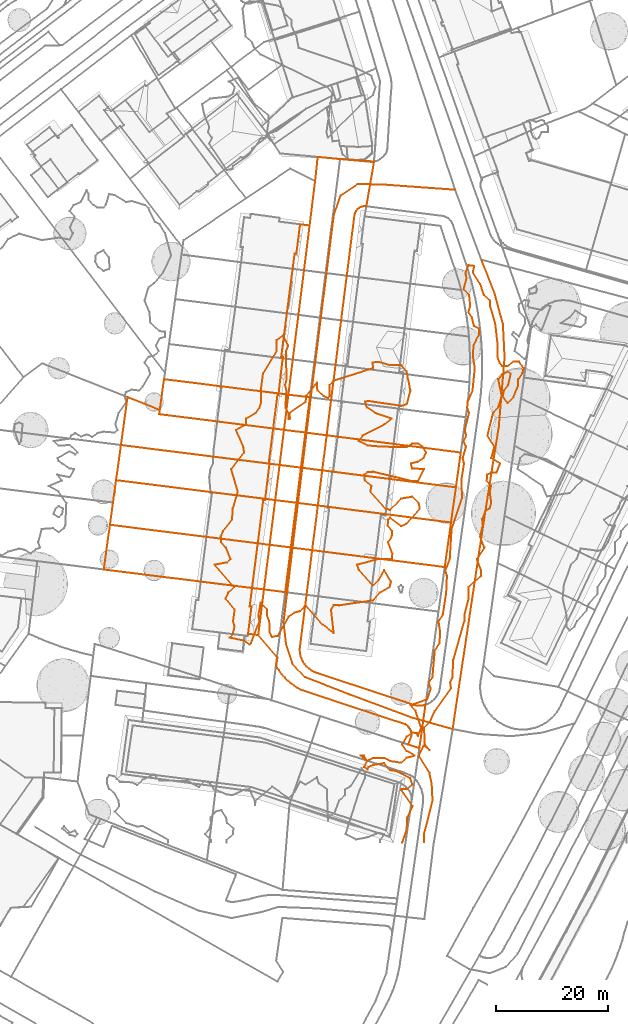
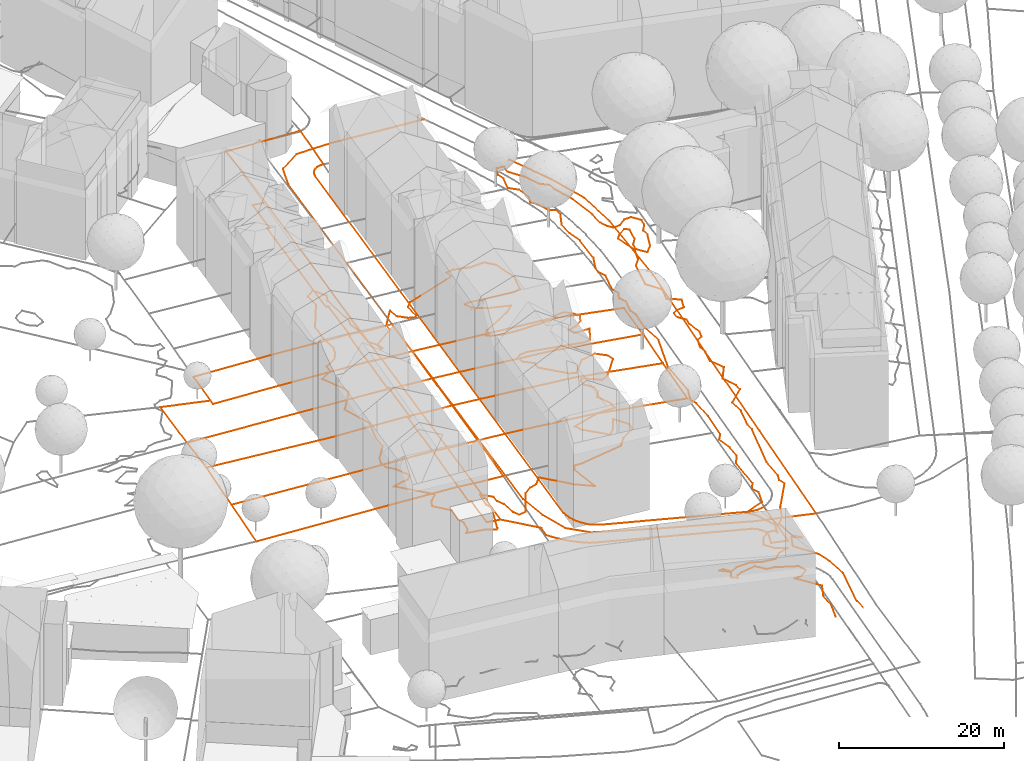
# Not in any storey, part 127 of 494: 14 proxies.
"""IFC2X3 model written with IfcOpenShell, lengths in metres."""

from ifc_helpers import new_model, entity, si_unit, frame, origin_with_axes, place, context, subcontext, project, element, save


model = new_model("IFC2X3")

# Units and contexts
model_context = context("Model", 3, precision=1e-05, world=origin_with_axes())
body_context = subcontext(model_context, "Body", "Model", "MODEL_VIEW")
ifc_project = project(units=[si_unit("AREAUNIT", "SQUARE_METRE"), si_unit("LENGTHUNIT", "METRE")], contexts=[model_context])

# Proxies
proxy_1_placement = place(None, frame((480.8617320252, 18.8857425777, 501.898), z_axis=(0.0, 0.0, 1.0), x_axis=(1.0, 0.0, 0.0)))
element("IfcBuildingElementProxy", 1, at=proxy_1_placement, Name="Road 96", ObjectType="NOTDEFINED", context=body_context, shape_type="GeometricCurveSet", body=[
    entity("IfcGeometricCurveSet", [entity("IfcPolyline", [entity("IfcCartesianPoint", [0.0, 0.0, 0.0]), entity("IfcCartesianPoint", [2.7899999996, 18.6489994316, 0.008]), entity("IfcCartesianPoint", [5.432, 36.2699988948, -0.042]), entity("IfcCartesianPoint", [8.2219999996, 53.8909983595, -0.147]), entity("IfcCartesianPoint", [9.2509999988, 66.2259979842, -0.063]), entity("IfcCartesianPoint", [8.956999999, 72.0999978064, 0.001]), entity("IfcCartesianPoint", [7.4890000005, 77.5339976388, -0.049]), entity("IfcCartesianPoint", [5.138999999, 83.553997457, -0.014])])]),
])
proxy_2_placement = place(None, frame((450.7577320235, 37.9757419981, 502.976), z_axis=(0.0, 0.0, 1.0), x_axis=(1.0, 0.0, 0.0)))
element("IfcBuildingElementProxy", 2, at=proxy_2_placement, Name="Road 97", ObjectType="NOTDEFINED", context=body_context, shape_type="GeometricCurveSet", body=[
    entity("IfcGeometricCurveSet", [entity("IfcPolyline", [entity("IfcCartesianPoint", [30.1040000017, -19.0899994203, -1.078]), entity("IfcCartesianPoint", [22.7609999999, -17.0339994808, -0.903]), entity("IfcCartesianPoint", [11.7480000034, -12.921999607, -0.621]), entity("IfcCartesianPoint", [3.819000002, -9.8389997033, -0.308]), entity("IfcCartesianPoint", [1.6150000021, -7.488999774, -0.338]), entity("IfcCartesianPoint", [0.4410000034, -3.9649998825, -0.097]), entity("IfcCartesianPoint", [0.0, 0.0, 0.0]), entity("IfcCartesianPoint", [4.8460000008, 39.9409987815, -0.148]), entity("IfcCartesianPoint", [8.9580000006, 72.5409977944, -0.481]), entity("IfcCartesianPoint", [10.1330000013, 75.9179976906, -0.6]), entity("IfcCartesianPoint", [13.2160000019, 77.9739976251, -0.737]), entity("IfcCartesianPoint", [18.2090000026, 77.8279976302, -0.707]), entity("IfcCartesianPoint", [30.5440000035, 76.9459976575, -1.027])])]),
])
proxy_3_placement = place(None, frame((444.4347320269, 35.8527160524, 503.0549278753), z_axis=(0.0, 0.0, 1.0), x_axis=(1.0, 0.0, 0.0)))
element("IfcBuildingElementProxy", 3, at=proxy_3_placement, Name="Roads Outline 118", ObjectType="NOTDEFINED", context=body_context, shape_type="GeometricCurveSet", body=[
    entity("IfcGeometricCurveSet", [entity("IfcPolyline", [entity("IfcCartesianPoint", [0.0, 0.0, 0.0]), entity("IfcCartesianPoint", [0.6129999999, 4.821, 0.0140262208]), entity("IfcCartesianPoint", [0.2959999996, 4.861, 0.0262642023]), entity("IfcCartesianPoint", [0.7139999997, 8.152, 0.0771060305]), entity("IfcCartesianPoint", [1.7249999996, 16.105, 0.1620143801]), entity("IfcCartesianPoint", [2.7049999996, 23.817, 0.1384099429]), entity("IfcCartesianPoint", [3.0209999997, 23.777, 0.1314965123]), entity("IfcCartesianPoint", [3.0529999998, 24.0249999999, 0.1304778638]), entity("IfcCartesianPoint", [3.8219999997, 30.28, 0.0889115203]), entity("IfcCartesianPoint", [3.8529999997, 30.5279999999, 0.0824403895]), entity("IfcCartesianPoint", [3.7039999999, 30.547, 0.0894626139]), entity("IfcCartesianPoint", [4.4699999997, 36.551, 0.0671671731]), entity("IfcCartesianPoint", [5.236, 42.5530000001, 0.0344566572]), entity("IfcCartesianPoint", [5.4049999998, 42.5319999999, 0.0215979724]), entity("IfcCartesianPoint", [5.4350000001, 42.791, 0.0216717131]), entity("IfcCartesianPoint", [6.1689999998, 49.051, -0.03255837]), entity("IfcCartesianPoint", [6.1939999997, 49.2679999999, -0.0415659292]), entity("IfcCartesianPoint", [5.8969999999, 49.307, -0.0056380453]), entity("IfcCartesianPoint", [6.9039999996, 57.0430000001, -0.1713291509]), entity("IfcCartesianPoint", [7.9359999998, 64.98, -0.3282861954]), entity("IfcCartesianPoint", [8.2939999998, 67.7220000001, -0.3507769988]), entity("IfcCartesianPoint", [8.602, 67.683, -0.3688636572]), entity("IfcCartesianPoint", [9.2659999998, 72.9110000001, -0.4470955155]), entity("IfcCartesianPoint", [10.9529999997, 72.696, -0.5103540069]), entity("IfcCartesianPoint", [1.8169999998, -0.2309999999, -0.1125126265]), entity("IfcCartesianPoint", [0.0, 0.0, 0.0])])]),
])
proxy_4_placement = place(None, frame((446.2517320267, 35.6217160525, 502.9424152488), z_axis=(0.0, 0.0, 1.0), x_axis=(1.0, 0.0, 0.0)))
element("IfcBuildingElementProxy", 4, at=proxy_4_placement, Name="Roads Outline 142", ObjectType="NOTDEFINED", context=body_context, shape_type="GeometricCurveSet", body=[
    entity("IfcGeometricCurveSet", [entity("IfcPolyline", [entity("IfcCartesianPoint", [0.0, 0.0, 0.0]), entity("IfcCartesianPoint", [9.1359999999, 72.9269999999, -0.3978413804]), entity("IfcCartesianPoint", [10.122, 80.808, -0.4845504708]), entity("IfcCartesianPoint", [10.5720000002, 85.139, -0.7922469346]), entity("IfcCartesianPoint", [14.5720000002, 84.7589999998, -0.6802024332]), entity("IfcCartesianPoint", [16.3799999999, 84.591, -0.6472827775]), entity("IfcCartesianPoint", [20.2069999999, 84.348, -0.690236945]), entity("IfcCartesianPoint", [20.409, 84.3339999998, -0.6953385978]), entity("IfcCartesianPoint", [20.6120000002, 84.3389999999, -0.7013848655]), entity("IfcCartesianPoint", [20.6010000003, 84.199, -0.6944927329]), entity("IfcCartesianPoint", [19.2379999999, 76.3539999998, -0.3432937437]), entity("IfcCartesianPoint", [19.139, 76.3669999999, -0.3429746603]), entity("IfcCartesianPoint", [18.8250000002, 76.3699999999, -0.340334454]), entity("IfcCartesianPoint", [18.5150000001, 76.3199999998, -0.3352851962]), entity("IfcCartesianPoint", [18.2170000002, 76.2189999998, -0.3304343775]), entity("IfcCartesianPoint", [17.9410000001, 76.0689999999, -0.3269020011]), entity("IfcCartesianPoint", [17.6439999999, 75.8259999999, -0.3221106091]), entity("IfcCartesianPoint", [17.4029999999, 75.5279999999, -0.3204986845]), entity("IfcCartesianPoint", [17.2280000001, 75.1869999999, -0.3219565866]), entity("IfcCartesianPoint", [17.1260000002, 74.818, -0.3225200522]), entity("IfcCartesianPoint", [7.3810000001, -2.4870000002, -0.0695600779]), entity("IfcCartesianPoint", [7.4160000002, -3.0630000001, -0.0846488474]), entity("IfcCartesianPoint", [7.5240000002, -3.6290000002, -0.1031213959]), entity("IfcCartesianPoint", [7.7039999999, -4.1770000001, -0.1230907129]), entity("IfcCartesianPoint", [7.952, -4.6970000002, -0.1630756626]), entity("IfcCartesianPoint", [8.2609999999, -5.176, -0.1824240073]), entity("IfcCartesianPoint", [8.628, -5.611, -0.2215844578]), entity("IfcCartesianPoint", [9.0470000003, -5.996, -0.2751528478]), entity("IfcCartesianPoint", [9.5120000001, -6.3250000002, -0.246311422]), entity("IfcCartesianPoint", [10.0150000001, -6.5930000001, -0.2523036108]), entity("IfcCartesianPoint", [10.548, -6.794, -0.2882218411]), entity("IfcCartesianPoint", [27.0810000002, -12.2410000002, -0.9431703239]), entity("IfcCartesianPoint", [27.6000000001, -12.4230000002, -0.9547359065]), entity("IfcCartesianPoint", [28.1409999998, -12.5290000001, -0.9737268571]), entity("IfcCartesianPoint", [28.6899999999, -12.5560000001, -0.9897706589]), entity("IfcCartesianPoint", [29.2379999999, -12.503, -0.9913075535]), entity("IfcCartesianPoint", [29.773, -12.3730000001, -0.9845470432]), entity("IfcCartesianPoint", [28.6830000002, -20.1430000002, -0.9363403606]), entity("IfcCartesianPoint", [26.6890000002, -19.4970000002, -0.9745874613]), entity("IfcCartesianPoint", [27.2719999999, -17.8720000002, -0.9566055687]), entity("IfcCartesianPoint", [27.27, -17.4910000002, -0.9515713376]), entity("IfcCartesianPoint", [27.196, -17.118, -0.9471228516]), entity("IfcCartesianPoint", [27.054, -16.7650000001, -0.9390478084]), entity("IfcCartesianPoint", [26.8790000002, -16.486, -0.9265239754]), entity("IfcCartesianPoint", [26.6609999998, -16.24, -0.910034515]), entity("IfcCartesianPoint", [26.406, -16.0330000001, -0.8954364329]), entity("IfcCartesianPoint", [26.1200000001, -15.8700000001, -0.8820961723]), entity("IfcCartesianPoint", [7.6869999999, -9.787, -0.1602901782]), entity("IfcCartesianPoint", [7.003, -9.4200000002, -0.1835348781]), entity("IfcCartesianPoint", [6.3510000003, -8.9990000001, -0.1578448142]), entity("IfcCartesianPoint", [5.7779999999, -8.5650000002, -0.1272363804]), entity("IfcCartesianPoint", [5.2400000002, -8.0890000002, -0.1346529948]), entity("IfcCartesianPoint", [4.7379999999, -7.574, -0.1124284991]), entity("IfcCartesianPoint", [4.1770000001, -6.9270000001, -0.0920350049]), entity("IfcCartesianPoint", [3.665, -6.24, -0.0879605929]), entity("IfcCartesianPoint", [3.2069999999, -5.517, -0.0814330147]), entity("IfcCartesianPoint", [3.4210000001, -3.9600000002, -0.0360167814]), entity("IfcCartesianPoint", [0.0, 0.0, 0.0])])]),
])
proxy_5_placement = place(None, frame((419.8427320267, 55.2587160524, 502.4970550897), z_axis=(0.0, 0.0, 1.0), x_axis=(1.0, 0.0, 0.0)))
element("IfcBuildingElementProxy", 5, at=proxy_5_placement, Name="Cadastre 178", ObjectType="NOTDEFINED", context=body_context, shape_type="GeometricCurveSet", body=[
    entity("IfcGeometricCurveSet", [entity("IfcPolyline", [entity("IfcCartesianPoint", [0.0, 0.0, 0.0]), entity("IfcCartesianPoint", [0.54, 3.95, 0.1104670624]), entity("IfcCartesianPoint", [1.091, 7.9399999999, 0.3101052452]), entity("IfcCartesianPoint", [17.4020000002, 5.899, 0.325993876]), entity("IfcCartesianPoint", [27.577, 4.6270000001, 0.6902176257]), entity("IfcCartesianPoint", [29.4419999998, 4.3929999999, 0.6739560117]), entity("IfcCartesianPoint", [33.2179999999, 3.9210000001, 0.6945416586]), entity("IfcCartesianPoint", [32.2069999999, -4.0389999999, 0.6980586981]), entity("IfcCartesianPoint", [28.4330000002, -3.5649999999, 0.6525538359]), entity("IfcCartesianPoint", [26.2799999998, -3.2959999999, 0.7189436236]), entity("IfcCartesianPoint", [17.1740000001, -2.1539999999, 0.430070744]), entity("IfcCartesianPoint", [0.0, 0.0, 0.0])])]),
])
proxy_6_placement = place(None, frame((418.7427320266, 47.2987160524, 502.2645492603), z_axis=(0.0, 0.0, 1.0), x_axis=(1.0, 0.0, 0.0)))
element("IfcBuildingElementProxy", 6, at=proxy_6_placement, Name="Cadastre 179", ObjectType="NOTDEFINED", context=body_context, shape_type="GeometricCurveSet", body=[
    entity("IfcGeometricCurveSet", [entity("IfcPolyline", [entity("IfcCartesianPoint", [0.0, 0.0, 0.0]), entity("IfcCartesianPoint", [1.1000000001, 7.96, 0.2325058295]), entity("IfcCartesianPoint", [18.2740000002, 5.8060000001, 0.6625765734]), entity("IfcCartesianPoint", [27.3799999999, 4.6640000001, 0.9514494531]), entity("IfcCartesianPoint", [29.5330000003, 4.395, 0.8850596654]), entity("IfcCartesianPoint", [33.307, 3.9210000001, 0.9305645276]), entity("IfcCartesianPoint", [32.307, -4.03, 0.8305754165]), entity("IfcCartesianPoint", [28.5360000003, -3.5600000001, 0.7834388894]), entity("IfcCartesianPoint", [26.3530000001, -3.287, 0.8654896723]), entity("IfcCartesianPoint", [17.2940000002, -2.1569999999, 0.6070282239]), entity("IfcCartesianPoint", [0.0, 0.0, 0.0])])]),
])
proxy_7_placement = place(None, frame((452.0497320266, 51.2197160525, 503.1951137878), z_axis=(0.0, 0.0, 1.0), x_axis=(1.0, 0.0, 0.0)))
element("IfcBuildingElementProxy", 7, at=proxy_7_placement, Name="Cadastre 184", ObjectType="NOTDEFINED", context=body_context, shape_type="GeometricCurveSet", body=[
    entity("IfcGeometricCurveSet", [entity("IfcPolyline", [entity("IfcCartesianPoint", [0.0, 0.0, 0.0]), entity("IfcCartesianPoint", [1.0109999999, 7.96, -0.0035170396]), entity("IfcCartesianPoint", [4.7850000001, 7.477, -0.0309835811]), entity("IfcCartesianPoint", [6.6290000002, 7.2409999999, -0.0546581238]), entity("IfcCartesianPoint", [16.8340000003, 5.9349999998, -0.1864666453]), entity("IfcCartesianPoint", [28.5180000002, 4.4399999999, -1.2199965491]), entity("IfcCartesianPoint", [27.4080000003, -3.49, -1.2337524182]), entity("IfcCartesianPoint", [15.0090000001, -1.9110000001, -0.2226126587]), entity("IfcCartesianPoint", [5.898, -0.7510000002, -0.0099981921]), entity("IfcCartesianPoint", [3.7749999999, -0.4810000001, 0.0159298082]), entity("IfcCartesianPoint", [0.0, 0.0, 0.0])])]),
])
proxy_8_placement = place(None, frame((420.9337320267, 63.1987160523, 502.807160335), z_axis=(0.0, 0.0, 1.0), x_axis=(1.0, 0.0, 0.0)))
element("IfcBuildingElementProxy", 8, at=proxy_8_placement, Name="Cadastre 204", ObjectType="NOTDEFINED", context=body_context, shape_type="GeometricCurveSet", body=[
    entity("IfcGeometricCurveSet", [entity("IfcPolyline", [entity("IfcCartesianPoint", [0.0, 0.0, 0.0]), entity("IfcCartesianPoint", [0.8700000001, 6.26, -0.4219569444]), entity("IfcCartesianPoint", [17.071, 4.2240000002, 0.0797304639]), entity("IfcCartesianPoint", [27.2930000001, 2.9380000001, 0.3387390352]), entity("IfcCartesianPoint", [29.1379999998, 2.706, 0.277819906]), entity("IfcCartesianPoint", [32.9169999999, 2.2310000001, 0.3329606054]), entity("IfcCartesianPoint", [32.1269999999, -4.0189999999, 0.3844364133]), entity("IfcCartesianPoint", [28.3509999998, -3.547, 0.3638507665]), entity("IfcCartesianPoint", [26.486, -3.3129999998, 0.3801123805]), entity("IfcCartesianPoint", [16.3110000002, -2.041, 0.0158886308]), entity("IfcCartesianPoint", [0.0, 0.0, 0.0])])]),
])
proxy_9_placement = place(None, frame((421.8037320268, 69.4587160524, 502.3852033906), z_axis=(0.0, 0.0, 1.0), x_axis=(1.0, 0.0, 0.0)))
element("IfcBuildingElementProxy", 9, at=proxy_9_placement, Name="Cadastre 205", ObjectType="NOTDEFINED", context=body_context, shape_type="GeometricCurveSet", body=[
    entity("IfcGeometricCurveSet", [entity("IfcPolyline", [entity("IfcCartesianPoint", [0.0, 0.0, 0.0]), entity("IfcCartesianPoint", [1.1710000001, 8.52, -0.2973359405]), entity("IfcCartesianPoint", [6.9099999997, 6.2410000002, 0.0406906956]), entity("IfcCartesianPoint", [6.8100000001, 5.5010000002, 0.0328479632]), entity("IfcCartesianPoint", [15.3909999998, 4.4200000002, 0.3765727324]), entity("IfcCartesianPoint", [27.054, 2.9510000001, 0.7417938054]), entity("IfcCartesianPoint", [29.0779999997, 2.696, 0.6461739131]), entity("IfcCartesianPoint", [32.8479999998, 2.2210000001, 0.7118375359]), entity("IfcCartesianPoint", [32.0469999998, -4.0289999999, 0.7549175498]), entity("IfcCartesianPoint", [28.2679999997, -3.554, 0.6997768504]), entity("IfcCartesianPoint", [26.423, -3.3219999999, 0.7606959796]), entity("IfcCartesianPoint", [16.2009999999, -2.0359999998, 0.5016874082]), entity("IfcCartesianPoint", [0.0, 0.0, 0.0])])]),
])
proxy_10_placement = place(None, frame((428.6137320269, 74.9597160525, 502.4180513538), z_axis=(0.0, 0.0, 1.0), x_axis=(1.0, 0.0, 0.0)))
element("IfcBuildingElementProxy", 10, at=proxy_10_placement, Name="Cadastre 211", ObjectType="NOTDEFINED", context=body_context, shape_type="GeometricCurveSet", body=[
    entity("IfcGeometricCurveSet", [entity("IfcPolyline", [entity("IfcCartesianPoint", [0.0, 0.0, 0.0]), entity("IfcCartesianPoint", [0.0999999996, 0.74, 0.0078427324]), entity("IfcCartesianPoint", [0.861, 6.22, -0.0556646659]), entity("IfcCartesianPoint", [10.9619999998, 4.9639999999, 0.3904180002]), entity("IfcCartesianPoint", [21.173, 3.6939999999, 0.664717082]), entity("IfcCartesianPoint", [23.0579999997, 3.459, 0.5239383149]), entity("IfcCartesianPoint", [26.8279999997, 2.99, 0.6135678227]), entity("IfcCartesianPoint", [26.0379999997, -3.28, 0.6789895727]), entity("IfcCartesianPoint", [22.2679999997, -2.8050000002, 0.6133259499]), entity("IfcCartesianPoint", [20.2439999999, -2.55, 0.7089458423]), entity("IfcCartesianPoint", [8.5809999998, -1.081, 0.3437247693]), entity("IfcCartesianPoint", [0.0, 0.0, 0.0])])]),
])
proxy_11_placement = place(None, frame((453.8507320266, 65.4297160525, 503.1401209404), z_axis=(0.0, 0.0, 1.0), x_axis=(1.0, 0.0, 0.0)))
element("IfcBuildingElementProxy", 11, at=proxy_11_placement, Name="Cadastre 216", ObjectType="NOTDEFINED", context=body_context, shape_type="GeometricCurveSet", body=[
    entity("IfcGeometricCurveSet", [entity("IfcPolyline", [entity("IfcCartesianPoint", [0.0, 0.0, 0.0]), entity("IfcCartesianPoint", [0.801, 6.25, -0.0430800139]), entity("IfcCartesianPoint", [4.5690000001, 5.7649999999, -0.0579737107]), entity("IfcCartesianPoint", [6.5530000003, 5.51, -0.0866132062]), entity("IfcCartesianPoint", [18.4810000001, 3.9739999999, -0.1075855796]), entity("IfcCartesianPoint", [28.4580000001, 2.6899999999, -1.1334012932]), entity("IfcCartesianPoint", [27.588, -3.51, -0.9850205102]), entity("IfcCartesianPoint", [15.8140000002, -2.0120000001, -0.1901834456]), entity("IfcCartesianPoint", [5.605, -0.713, -0.0495484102]), entity("IfcCartesianPoint", [3.7800000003, -0.4810000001, -0.0184109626]), entity("IfcCartesianPoint", [0.0, 0.0, 0.0])])]),
])
proxy_12_placement = place(None, frame((453.0607320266, 59.1797160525, 503.1915967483), z_axis=(0.0, 0.0, 1.0), x_axis=(1.0, 0.0, 0.0)))
element("IfcBuildingElementProxy", 12, at=proxy_12_placement, Name="Cadastre 217", ObjectType="NOTDEFINED", context=body_context, shape_type="GeometricCurveSet", body=[
    entity("IfcGeometricCurveSet", [entity("IfcPolyline", [entity("IfcCartesianPoint", [0.0, 0.0, 0.0]), entity("IfcCartesianPoint", [0.79, 6.25, -0.0514758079]), entity("IfcCartesianPoint", [4.5700000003, 5.7689999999, -0.0698867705]), entity("IfcCartesianPoint", [6.395, 5.537, -0.1010242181]), entity("IfcCartesianPoint", [16.6040000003, 4.2379999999, -0.2416592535]), entity("IfcCartesianPoint", [28.378, 2.74, -1.036496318]), entity("IfcCartesianPoint", [27.5070000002, -3.52, -1.2164795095]), entity("IfcCartesianPoint", [15.8230000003, -2.0250000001, -0.1829496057]), entity("IfcCartesianPoint", [5.6180000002, -0.719, -0.0511410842]), entity("IfcCartesianPoint", [3.7740000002, -0.483, -0.0274665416]), entity("IfcCartesianPoint", [0.0, 0.0, 0.0])])]),
])
proxy_13_placement = place(None, frame((438.4559052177, 48.1707160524, 503.0), z_axis=(0.0, 0.0, 1.0), x_axis=(1.0, 0.0, 0.0)))
element("IfcBuildingElementProxy", 13, at=proxy_13_placement, Name="Contour Line 503.0 m", ObjectType="NOTDEFINED", context=body_context, shape_type="GeometricCurveSet", body=[
    entity("IfcGeometricCurveSet", [entity("IfcPolyline", [entity("IfcCartesianPoint", [6.4882360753, -14.0, 0.0]), entity("IfcCartesianPoint", [6.221826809, -14.2223415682, 0.0]), entity("IfcCartesianPoint", [5.221826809, -13.5312213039, 0.0]), entity("IfcCartesianPoint", [2.6863709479, -13.0, 0.0]), entity("IfcCartesianPoint", [3.221826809, -12.4721825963, 0.0]), entity("IfcCartesianPoint", [3.5698931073, -11.0, 0.0]), entity("IfcCartesianPoint", [3.3091939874, -10.0, 0.0]), entity("IfcCartesianPoint", [3.5953492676, -8.0, 0.0]), entity("IfcCartesianPoint", [1.949712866, -6.0, 0.0]), entity("IfcCartesianPoint", [2.4602169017, -5.0, 0.0]), entity("IfcCartesianPoint", [3.487998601, -4.0, 0.0]), entity("IfcCartesianPoint", [0.0, 0.0, 0.0]), entity("IfcCartesianPoint", [2.221826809, 0.4118507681, 0.0]), entity("IfcCartesianPoint", [2.8614449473, 1.0, 0.0]), entity("IfcCartesianPoint", [2.0531348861, 3.0, 0.0]), entity("IfcCartesianPoint", [1.183770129, 4.0, 0.0]), entity("IfcCartesianPoint", [1.1273146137, 5.0, 0.0]), entity("IfcCartesianPoint", [1.5029188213, 6.0, 0.0]), entity("IfcCartesianPoint", [3.1186923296, 8.0, 0.0]), entity("IfcCartesianPoint", [3.2627049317, 10.0, 0.0]), entity("IfcCartesianPoint", [4.1525278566, 13.0, 0.0]), entity("IfcCartesianPoint", [2.9771987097, 17.0, 0.0]), entity("IfcCartesianPoint", [5.2813608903, 20.0, 0.0]), entity("IfcCartesianPoint", [5.1331101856, 21.0, 0.0]), entity("IfcCartesianPoint", [3.8237376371, 24.0, 0.0]), entity("IfcCartesianPoint", [5.5900086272, 25.0, 0.0]), entity("IfcCartesianPoint", [5.6608374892, 26.0, 0.0]), entity("IfcCartesianPoint", [7.3370004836, 27.0, 0.0]), entity("IfcCartesianPoint", [8.0061046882, 28.0, 0.0]), entity("IfcCartesianPoint", [8.3345482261, 29.0, 0.0]), entity("IfcCartesianPoint", [8.2406302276, 31.0, 0.0]), entity("IfcCartesianPoint", [8.6376370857, 34.0, 0.0]), entity("IfcCartesianPoint", [11.0750514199, 38.0, 0.0]), entity("IfcCartesianPoint", [11.0372456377, 40.0, 0.0]), entity("IfcCartesianPoint", [12.221826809, 40.8018063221, 0.0]), entity("IfcCartesianPoint", [13.1405877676, 39.0, 0.0]), entity("IfcCartesianPoint", [12.7242642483, 38.0, 0.0]), entity("IfcCartesianPoint", [12.8364414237, 33.0, 0.0]), entity("IfcCartesianPoint", [12.5815720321, 32.0, 0.0]), entity("IfcCartesianPoint", [12.8064992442, 31.0, 0.0]), entity("IfcCartesianPoint", [12.6299518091, 28.0, 0.0]), entity("IfcCartesianPoint", [13.1845862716, 27.0, 0.0]), entity("IfcCartesianPoint", [13.221826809, 25.900373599, 0.0]), entity("IfcCartesianPoint", [13.4613477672, 26.0, 0.0]), entity("IfcCartesianPoint", [13.3280985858, 27.0, 0.0]), entity("IfcCartesianPoint", [16.221826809, 28.9781249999, 0.0]), entity("IfcCartesianPoint", [16.3207279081, 30.0, 0.0]), entity("IfcCartesianPoint", [18.221826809, 32.4339622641, 0.0]), entity("IfcCartesianPoint", [18.3343809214, 31.0, 0.0]), entity("IfcCartesianPoint", [19.3842561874, 30.0, 0.0]), entity("IfcCartesianPoint", [20.221826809, 29.6603665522, 0.0]), entity("IfcCartesianPoint", [20.4866771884, 30.0, 0.0]), entity("IfcCartesianPoint", [20.5204337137, 32.0, 0.0]), entity("IfcCartesianPoint", [21.221826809, 32.7573577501, 0.0]), entity("IfcCartesianPoint", [28.2568462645, 35.0, 0.0]), entity("IfcCartesianPoint", [28.144307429, 36.0, 0.0]), entity("IfcCartesianPoint", [29.221826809, 36.101141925, 0.0]), entity("IfcCartesianPoint", [31.221826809, 35.5009848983, 0.0]), entity("IfcCartesianPoint", [33.221826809, 35.5638730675, 0.0]), entity("IfcCartesianPoint", [34.221826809, 34.3968627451, 0.0]), entity("IfcCartesianPoint", [34.8750931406, 31.0, 0.0]), entity("IfcCartesianPoint", [34.221826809, 28.5517529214, 0.0]), entity("IfcCartesianPoint", [33.221826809, 28.2796725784, 0.0]), entity("IfcCartesianPoint", [27.221826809, 29.1565533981, 0.0]), entity("IfcCartesianPoint", [26.8096862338, 29.0, 0.0]), entity("IfcCartesianPoint", [27.1419546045, 28.0, 0.0]), entity("IfcCartesianPoint", [28.6398162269, 27.0, 0.0]), entity("IfcCartesianPoint", [31.5119031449, 26.0, 0.0]), entity("IfcCartesianPoint", [30.3254208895, 25.0, 0.0]), entity("IfcCartesianPoint", [26.3948225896, 23.0, 0.0]), entity("IfcCartesianPoint", [25.6442567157, 22.0, 0.0]), entity("IfcCartesianPoint", [27.221826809, 21.2299270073, 0.0]), entity("IfcCartesianPoint", [29.5245791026, 21.0, 0.0]), entity("IfcCartesianPoint", [34.221826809, 20.9408099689, 0.0]), entity("IfcCartesianPoint", [35.221826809, 21.5624434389, 0.0]), entity("IfcCartesianPoint", [36.221826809, 21.5541746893, 0.0]), entity("IfcCartesianPoint", [37.0611693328, 21.0, 0.0]), entity("IfcCartesianPoint", [37.6912644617, 20.0, 0.0]), entity("IfcCartesianPoint", [37.2034070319, 19.0, 0.0]), entity("IfcCartesianPoint", [36.221826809, 18.3327841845, 0.0]), entity("IfcCartesianPoint", [34.9601334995, 18.0, 0.0]), entity("IfcCartesianPoint", [35.221826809, 17.1384015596, 0.0]), entity("IfcCartesianPoint", [37.3181095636, 17.0, 0.0]), entity("IfcCartesianPoint", [36.221826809, 14.925725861, 0.0]), entity("IfcCartesianPoint", [35.221826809, 14.8440913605, 0.0]), entity("IfcCartesianPoint", [28.221826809, 16.5374531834, 0.0]), entity("IfcCartesianPoint", [27.221826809, 16.4438430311, 0.0]), entity("IfcCartesianPoint", [26.6484002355, 16.0, 0.0]), entity("IfcCartesianPoint", [26.7672813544, 15.0, 0.0]), entity("IfcCartesianPoint", [27.9346473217, 14.0, 0.0]), entity("IfcCartesianPoint", [27.7531700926, 13.0, 0.0]), entity("IfcCartesianPoint", [30.4449673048, 10.0, 0.0]), entity("IfcCartesianPoint", [31.221826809, 9.707165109, 0.0]), entity("IfcCartesianPoint", [33.221826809, 11.7622468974, 0.0]), entity("IfcCartesianPoint", [35.221826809, 12.1007905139, 0.0]), entity("IfcCartesianPoint", [36.3748850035, 11.0, 0.0]), entity("IfcCartesianPoint", [36.5546609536, 10.0, 0.0]), entity("IfcCartesianPoint", [34.221826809, 7.3, 0.0]), entity("IfcCartesianPoint", [33.221826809, 6.8518839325, 0.0]), entity("IfcCartesianPoint", [31.221826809, 8.3653308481, 0.0]), entity("IfcCartesianPoint", [30.9148573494, 8.0, 0.0]), entity("IfcCartesianPoint", [30.8407467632, 7.0, 0.0]), entity("IfcCartesianPoint", [31.6009990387, 6.0, 0.0]), entity("IfcCartesianPoint", [31.5715535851, 5.0, 0.0]), entity("IfcCartesianPoint", [30.9002581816, 4.0, 0.0]), entity("IfcCartesianPoint", [31.6672030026, 2.0, 0.0]), entity("IfcCartesianPoint", [31.6334023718, 1.0, 0.0]), entity("IfcCartesianPoint", [29.221826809, 1.0034535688, 0.0]), entity("IfcCartesianPoint", [25.3804744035, 0.0, 0.0]), entity("IfcCartesianPoint", [25.7621493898, -1.0, 0.0]), entity("IfcCartesianPoint", [28.221826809, -3.6705539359, 0.0]), entity("IfcCartesianPoint", [29.221826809, -2.7744360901, 0.0]), entity("IfcCartesianPoint", [30.221826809, -1.0051334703, 0.0]), entity("IfcCartesianPoint", [31.4157333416, -3.0, 0.0]), entity("IfcCartesianPoint", [31.1725851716, -4.0, 0.0]), entity("IfcCartesianPoint", [29.404301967, -5.0, 0.0]), entity("IfcCartesianPoint", [28.221826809, -6.3584541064, 0.0]), entity("IfcCartesianPoint", [22.221826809, -7.2488789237, 0.0]), entity("IfcCartesianPoint", [21.221826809, -7.1789883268, 0.0]), entity("IfcCartesianPoint", [20.76213182, -8.0, 0.0]), entity("IfcCartesianPoint", [21.221826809, -12.1930693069, 0.0]), entity("IfcCartesianPoint", [19.221826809, -10.6293494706, 0.0]), entity("IfcCartesianPoint", [16.221826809, -7.1879139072, 0.0]), entity("IfcCartesianPoint", [15.221826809, -8.2982862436, 0.0]), entity("IfcCartesianPoint", [14.221826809, -8.5237789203, 0.0]), entity("IfcCartesianPoint", [13.221826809, -9.2438524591, 0.0]), entity("IfcCartesianPoint", [11.221826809, -12.6814159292, 0.0]), entity("IfcCartesianPoint", [10.221826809, -12.850877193, 0.0]), entity("IfcCartesianPoint", [9.8396862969, -12.0, 0.0]), entity("IfcCartesianPoint", [9.748020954, -10.0, 0.0]), entity("IfcCartesianPoint", [9.3192019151, -9.0, 0.0]), entity("IfcCartesianPoint", [9.4056666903, -8.0, 0.0]), entity("IfcCartesianPoint", [8.221826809, -6.7661996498, 0.0]), entity("IfcCartesianPoint", [7.8113050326, -9.0, 0.0]), entity("IfcCartesianPoint", [8.0076929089, -10.0, 0.0]), entity("IfcCartesianPoint", [6.4882360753, -14.0, 0.0])])]),
])
proxy_14_placement = place(None, frame((464.4911123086, 14.1707160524, 502.0), z_axis=(0.0, 0.0, 1.0), x_axis=(1.0, 0.0, 0.0)))
element("IfcBuildingElementProxy", 14, at=proxy_14_placement, Name="Contour Line 502.0 m", ObjectType="NOTDEFINED", context=body_context, shape_type="GeometricCurveSet", body=[
    entity("IfcGeometricCurveSet", [entity("IfcPolyline", [entity("IfcCartesianPoint", [11.2759843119, -15.5, 0.0]), entity("IfcCartesianPoint", [11.256815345, -14.0, 0.0]), entity("IfcCartesianPoint", [12.7933424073, -8.0, 0.0]), entity("IfcCartesianPoint", [12.6395320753, -5.0, 0.0]), entity("IfcCartesianPoint", [12.2300263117, -3.0, 0.0]), entity("IfcCartesianPoint", [10.3523951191, 0.0, 0.0]), entity("IfcCartesianPoint", [11.1866197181, 1.8036036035, 0.0]), entity("IfcCartesianPoint", [12.250761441, 1.0, 0.0]), entity("IfcCartesianPoint", [11.4225504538, 2.0, 0.0]), entity("IfcCartesianPoint", [11.2831714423, 5.0, 0.0]), entity("IfcCartesianPoint", [12.2955691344, 6.0, 0.0]), entity("IfcCartesianPoint", [13.1866197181, 7.9680672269, 0.0]), entity("IfcCartesianPoint", [16.1035336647, 12.0, 0.0]), entity("IfcCartesianPoint", [15.937509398, 13.0, 0.0]), entity("IfcCartesianPoint", [16.3229371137, 14.0, 0.0]), entity("IfcCartesianPoint", [16.4813364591, 17.0, 0.0]), entity("IfcCartesianPoint", [18.4553620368, 24.0, 0.0]), entity("IfcCartesianPoint", [18.4584317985, 25.0, 0.0]), entity("IfcCartesianPoint", [19.2218056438, 28.0, 0.0]), entity("IfcCartesianPoint", [19.162595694, 30.0, 0.0]), entity("IfcCartesianPoint", [21.4059593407, 32.0, 0.0]), entity("IfcCartesianPoint", [21.4349951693, 33.0, 0.0]), entity("IfcCartesianPoint", [20.695208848, 35.0, 0.0]), entity("IfcCartesianPoint", [22.0390448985, 37.0, 0.0]), entity("IfcCartesianPoint", [21.2526095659, 39.0, 0.0]), entity("IfcCartesianPoint", [21.7417527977, 41.0, 0.0]), entity("IfcCartesianPoint", [21.6446842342, 42.0, 0.0]), entity("IfcCartesianPoint", [22.1866197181, 43.6432038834, 0.0]), entity("IfcCartesianPoint", [22.9482777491, 44.0, 0.0]), entity("IfcCartesianPoint", [23.2523075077, 45.0, 0.0]), entity("IfcCartesianPoint", [22.98164168, 47.0, 0.0]), entity("IfcCartesianPoint", [23.1908786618, 48.0, 0.0]), entity("IfcCartesianPoint", [22.4374788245, 49.0, 0.0]), entity("IfcCartesianPoint", [22.5256729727, 50.0, 0.0]), entity("IfcCartesianPoint", [23.1866197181, 50.3774923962, 0.0]), entity("IfcCartesianPoint", [24.1866197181, 50.4309000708, 0.0]), entity("IfcCartesianPoint", [24.7831786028, 52.0, 0.0]), entity("IfcCartesianPoint", [23.2497628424, 53.0, 0.0]), entity("IfcCartesianPoint", [23.7977946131, 55.0, 0.0]), entity("IfcCartesianPoint", [22.5672334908, 57.0, 0.0]), entity("IfcCartesianPoint", [23.5501299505, 61.0, 0.0]), entity("IfcCartesianPoint", [24.4530392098, 62.0, 0.0]), entity("IfcCartesianPoint", [25.1156359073, 64.0, 0.0]), entity("IfcCartesianPoint", [24.4929833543, 67.0, 0.0]), entity("IfcCartesianPoint", [25.1866197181, 67.8199892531, 0.0]), entity("IfcCartesianPoint", [26.1866197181, 68.4007801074, 0.0]), entity("IfcCartesianPoint", [26.7105202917, 68.0, 0.0]), entity("IfcCartesianPoint", [26.2503401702, 66.0, 0.0]), entity("IfcCartesianPoint", [25.5026691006, 65.0, 0.0]), entity("IfcCartesianPoint", [25.2908244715, 64.0, 0.0]), entity("IfcCartesianPoint", [26.1866197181, 62.7497109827, 0.0]), entity("IfcCartesianPoint", [27.1866197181, 63.8403263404, 0.0]), entity("IfcCartesianPoint", [28.0534132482, 66.0, 0.0]), entity("IfcCartesianPoint", [28.0420681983, 67.0, 0.0]), entity("IfcCartesianPoint", [28.755661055, 68.0, 0.0]), entity("IfcCartesianPoint", [28.983210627, 69.0, 0.0]), entity("IfcCartesianPoint", [28.1866197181, 70.1649289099, 0.0]), entity("IfcCartesianPoint", [27.1866197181, 70.1882656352, 0.0]), entity("IfcCartesianPoint", [26.1866197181, 69.3742387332, 0.0]), entity("IfcCartesianPoint", [25.1866197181, 69.3666401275, 0.0]), entity("IfcCartesianPoint", [24.722906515, 70.0, 0.0]), entity("IfcCartesianPoint", [24.3424866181, 71.0, 0.0]), entity("IfcCartesianPoint", [24.4068350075, 73.0, 0.0]), entity("IfcCartesianPoint", [23.9440889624, 77.0, 0.0]), entity("IfcCartesianPoint", [23.0613349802, 80.0, 0.0]), entity("IfcCartesianPoint", [23.0226412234, 81.0, 0.0]), entity("IfcCartesianPoint", [21.9244210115, 82.0, 0.0]), entity("IfcCartesianPoint", [21.2816197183, 84.0, 0.0]), entity("IfcCartesianPoint", [19.9709334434, 86.0, 0.0]), entity("IfcCartesianPoint", [20.1866197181, 87.1898907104, 0.0]), entity("IfcCartesianPoint", [19.1866197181, 87.3064798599, 0.0]), entity("IfcCartesianPoint", [18.6630595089, 86.0, 0.0]), entity("IfcCartesianPoint", [18.8455670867, 85.0, 0.0]), entity("IfcCartesianPoint", [18.2989495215, 83.0, 0.0]), entity("IfcCartesianPoint", [19.302303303, 82.0, 0.0]), entity("IfcCartesianPoint", [19.5110522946, 80.0, 0.0]), entity("IfcCartesianPoint", [19.1622764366, 79.0, 0.0]), entity("IfcCartesianPoint", [19.8139057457, 78.0, 0.0]), entity("IfcCartesianPoint", [20.1866197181, 76.4388405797, 0.0]), entity("IfcCartesianPoint", [21.1194601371, 76.0, 0.0]), entity("IfcCartesianPoint", [21.0432373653, 75.0, 0.0]), entity("IfcCartesianPoint", [20.0760529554, 73.0, 0.0]), entity("IfcCartesianPoint", [19.9959444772, 71.0, 0.0]), entity("IfcCartesianPoint", [20.3141134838, 69.0, 0.0]), entity("IfcCartesianPoint", [19.9110426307, 65.0, 0.0]), entity("IfcCartesianPoint", [19.0270270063, 63.0, 0.0]), entity("IfcCartesianPoint", [18.9620444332, 62.0, 0.0]), entity("IfcCartesianPoint", [19.2827634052, 61.0, 0.0]), entity("IfcCartesianPoint", [18.5387473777, 58.0, 0.0]), entity("IfcCartesianPoint", [18.789879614, 57.0, 0.0]), entity("IfcCartesianPoint", [18.3067610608, 56.0, 0.0]), entity("IfcCartesianPoint", [18.7338913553, 55.0, 0.0]), entity("IfcCartesianPoint", [18.1701054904, 53.0, 0.0]), entity("IfcCartesianPoint", [18.3940046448, 52.0, 0.0]), entity("IfcCartesianPoint", [17.9178836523, 49.0, 0.0]), entity("IfcCartesianPoint", [18.0675005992, 46.0, 0.0]), entity("IfcCartesianPoint", [16.1866197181, 40.3681377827, 0.0]), entity("IfcCartesianPoint", [15.8587895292, 35.0, 0.0]), entity("IfcCartesianPoint", [15.06204856, 33.0, 0.0]), entity("IfcCartesianPoint", [15.3554982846, 32.0, 0.0]), entity("IfcCartesianPoint", [15.2237931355, 29.0, 0.0]), entity("IfcCartesianPoint", [14.6107034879, 25.0, 0.0]), entity("IfcCartesianPoint", [13.8480749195, 24.0, 0.0]), entity("IfcCartesianPoint", [14.1532692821, 22.0, 0.0]), entity("IfcCartesianPoint", [14.0245856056, 20.0, 0.0]), entity("IfcCartesianPoint", [13.1866197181, 18.7178968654, 0.0]), entity("IfcCartesianPoint", [12.7751345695, 14.0, 0.0]), entity("IfcCartesianPoint", [12.1049647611, 13.0, 0.0]), entity("IfcCartesianPoint", [12.4811599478, 12.0, 0.0]), entity("IfcCartesianPoint", [11.8174281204, 10.0, 0.0]), entity("IfcCartesianPoint", [8.9009054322, 9.0, 0.0]), entity("IfcCartesianPoint", [9.7277574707, 8.0, 0.0]), entity("IfcCartesianPoint", [10.7531831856, 5.0, 0.0]), entity("IfcCartesianPoint", [10.1866197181, 3.487804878, 0.0]), entity("IfcCartesianPoint", [10.0250812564, 4.0, 0.0]), entity("IfcCartesianPoint", [9.1866197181, 4.0889070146, 0.0]), entity("IfcCartesianPoint", [8.1866197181, 3.3658536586, 0.0]), entity("IfcCartesianPoint", [7.3916108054, 2.0, 0.0]), entity("IfcCartesianPoint", [8.1866197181, 0.851979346, 0.0]), entity("IfcCartesianPoint", [9.6151911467, 0.0, 0.0]), entity("IfcCartesianPoint", [8.1866197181, -0.3801843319, 0.0]), entity("IfcCartesianPoint", [7.1866197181, -1.2730696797, 0.0]), entity("IfcCartesianPoint", [5.3167312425, -1.0, 0.0]), entity("IfcCartesianPoint", [4.1866197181, -0.4211956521, 0.0]), entity("IfcCartesianPoint", [2.1866197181, -0.4129335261, 0.0]), entity("IfcCartesianPoint", [1.1866197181, -0.9161554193, 0.0]), entity("IfcCartesianPoint", [0.5582887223, 0.0, 0.0]), entity("IfcCartesianPoint", [0.0, 0.0, 0.0]), entity("IfcCartesianPoint", [1.1314380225, -1.0, 0.0]), entity("IfcCartesianPoint", [0.5616197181, -2.0, 0.0]), entity("IfcCartesianPoint", [1.1866197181, -2.4448742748, 0.0]), entity("IfcCartesianPoint", [1.4112290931, -2.0, 0.0]), entity("IfcCartesianPoint", [2.1866197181, -1.6717651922, 0.0]), entity("IfcCartesianPoint", [4.1866197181, -1.351678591, 0.0]), entity("IfcCartesianPoint", [5.1866197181, -2.6004645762, 0.0]), entity("IfcCartesianPoint", [6.1866197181, -2.7390710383, 0.0]), entity("IfcCartesianPoint", [8.8140204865, -4.0, 0.0]), entity("IfcCartesianPoint", [9.1866197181, -5.1328502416, 0.0]), entity("IfcCartesianPoint", [8.1866197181, -5.9642324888, 0.0]), entity("IfcCartesianPoint", [7.1238353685, -6.0, 0.0]), entity("IfcCartesianPoint", [9.2444709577, -9.0, 0.0]), entity("IfcCartesianPoint", [8.2807447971, -11.0, 0.0]), entity("IfcCartesianPoint", [8.1866197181, -13.0641711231, 0.0]), entity("IfcCartesianPoint", [7.404313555, -15.5, 0.0])])]),
])

save(model, "model.ifc")
